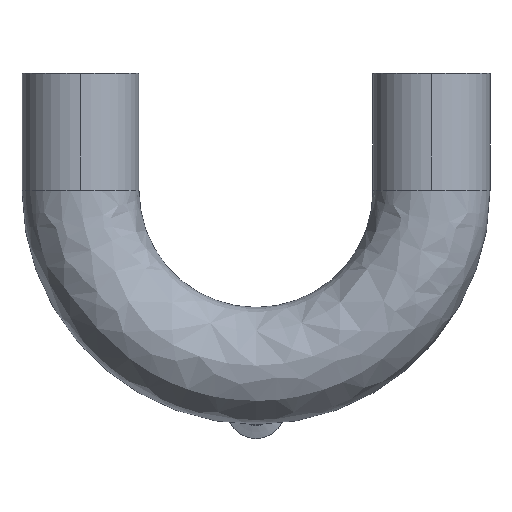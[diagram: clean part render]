
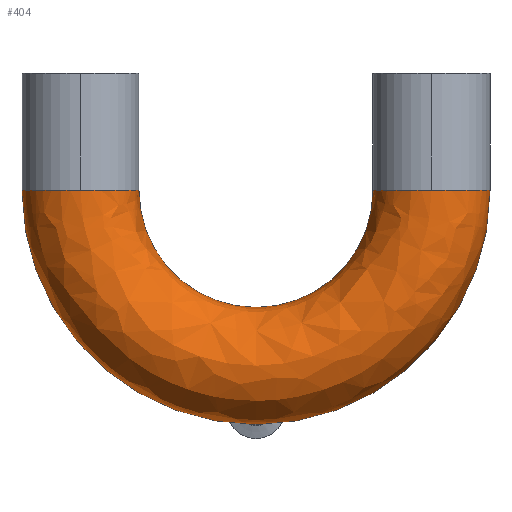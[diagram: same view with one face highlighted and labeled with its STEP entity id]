
A CAD part, top view. The second image highlights one B-rep face of the part: STEP entity #404.
In plain terms, the highlighted free-form (B-spline) face has degree [3, 3] with [4, 4] control points.
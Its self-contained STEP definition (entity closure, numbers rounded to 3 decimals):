
#3 = DIRECTION ( 'NONE',  ( 0., -1., 0. ) ) ;
#13 = VERTEX_POINT ( 'NONE', #1626 ) ;
#23 = DIRECTION ( 'NONE',  ( 1., 0., 0. ) ) ;
#35 = DIRECTION ( 'NONE',  ( 0., -1., 0. ) ) ;
#61 = CIRCLE ( 'NONE', #894, 25.4 ) ;
#87 = ORIENTED_EDGE ( 'NONE', *, *, #372, .T. ) ;
#115 = DIRECTION ( 'NONE',  ( 0., 0., -1. ) ) ;
#159 = CARTESIAN_POINT ( 'NONE',  ( 101.6, 76.2, 0. ) ) ;
#174 = CARTESIAN_POINT ( 'NONE',  ( -50.8, 76.2, 0. ) ) ;
#186 = VERTEX_POINT ( 'NONE', #1222 ) ;
#215 = DIRECTION ( 'NONE',  ( 0., 0., -1. ) ) ;
#245 = CARTESIAN_POINT ( 'NONE',  ( 0., -25.4, 0. ) ) ;
#263 = CARTESIAN_POINT ( 'NONE',  ( -76.2, 76.2, 0. ) ) ;
#265 = ORIENTED_EDGE ( 'NONE', *, *, #1531, .F. ) ;
#272 = EDGE_CURVE ( 'NONE', #13, #1044, #61, .T. ) ;
#278 = CARTESIAN_POINT ( 'NONE',  ( -50.8, 76.2, 0. ) ) ;
#294 = FACE_OUTER_BOUND ( 'NONE', #789, .T. ) ;
#298 = CARTESIAN_POINT ( 'NONE',  ( -101.6, 76.2, 0. ) ) ;
#328 = AXIS2_PLACEMENT_3D ( 'NONE', #543, #1479, #673 ) ;
#372 = EDGE_CURVE ( 'NONE', #1726, #13, #1187, .T. ) ;
#381 = ORIENTED_EDGE ( 'NONE', *, *, #1494, .T. ) ;
#404 = ADVANCED_FACE ( 'NONE', ( #294 ), #1272, .T. ) ;
#415 = DIRECTION ( 'NONE',  ( -1., 0., 0. ) ) ;
#420 = CARTESIAN_POINT ( 'NONE',  ( 101.6, -127., 50.8 ) ) ;
#438 = CARTESIAN_POINT ( 'NONE',  ( -101.6, -127., 50.8 ) ) ;
#497 = AXIS2_PLACEMENT_3D ( 'NONE', #1037, #215, #1186 ) ;
#518 = VERTEX_POINT ( 'NONE', #807 ) ;
#543 = CARTESIAN_POINT ( 'NONE',  ( -76.2, 76.2, 0. ) ) ;
#548 = DIRECTION ( 'NONE',  ( 1., 0., 0. ) ) ;
#572 = CARTESIAN_POINT ( 'NONE',  ( 50.8, -25.4, 0. ) ) ;
#639 = VERTEX_POINT ( 'NONE', #278 ) ;
#673 = DIRECTION ( 'NONE',  ( -1., 0., 0. ) ) ;
#703 = CIRCLE ( 'NONE', #497, 101.6 ) ;
#705 = DIRECTION ( 'NONE',  ( 0., 0., -1. ) ) ;
#789 = EDGE_LOOP ( 'NONE', ( #1193, #1052, #381, #1227, #265, #1710, #87 ) ) ;
#807 = CARTESIAN_POINT ( 'NONE',  ( -101.6, 76.2, 0. ) ) ;
#849 = CARTESIAN_POINT ( 'NONE',  ( -50.8, -25.4, 0. ) ) ;
#894 = AXIS2_PLACEMENT_3D ( 'NONE', #1125, #3, #548 ) ;
#931 = CARTESIAN_POINT ( 'NONE',  ( 0., 76.2, 0. ) ) ;
#952 = CARTESIAN_POINT ( 'NONE',  ( 76.2, 76.2, 0. ) ) ;
#969 = CARTESIAN_POINT ( 'NONE',  ( -101.6, -127., 0. ) ) ;
#1004 = CIRCLE ( 'NONE', #1717, 50.8 ) ;
#1037 = CARTESIAN_POINT ( 'NONE',  ( 0., 76.2, 0. ) ) ;
#1044 = VERTEX_POINT ( 'NONE', #1687 ) ;
#1052 = ORIENTED_EDGE ( 'NONE', *, *, #1151, .T. ) ;
#1074 = DIRECTION ( 'NONE',  ( -1., 0., 0. ) ) ;
#1111 = AXIS2_PLACEMENT_3D ( 'NONE', #263, #1234, #415 ) ;
#1125 = CARTESIAN_POINT ( 'NONE',  ( 76.2, 76.2, 0. ) ) ;
#1148 = CARTESIAN_POINT ( 'NONE',  ( 101.6, 76.2, 50.8 ) ) ;
#1151 = EDGE_CURVE ( 'NONE', #1044, #639, #1004, .T. ) ;
#1155 = EDGE_CURVE ( 'NONE', #186, #518, #1294, .T. ) ;
#1176 = VERTEX_POINT ( 'NONE', #245 ) ;
#1186 = DIRECTION ( 'NONE',  ( -1., 0., 0. ) ) ;
#1187 = CIRCLE ( 'NONE', #1339, 25.4 ) ;
#1193 = ORIENTED_EDGE ( 'NONE', *, *, #272, .T. ) ;
#1222 = CARTESIAN_POINT ( 'NONE',  ( -76.2, 76.2, 25.4 ) ) ;
#1227 = ORIENTED_EDGE ( 'NONE', *, *, #1155, .T. ) ;
#1230 = CARTESIAN_POINT ( 'NONE',  ( 50.8, 76.2, 50.8 ) ) ;
#1234 = DIRECTION ( 'NONE',  ( 0., -1., 0. ) ) ;
#1272 =( BOUNDED_SURFACE ( )  B_SPLINE_SURFACE ( 3, 3, ( 
 ( #159, #1749, #969, #298 ),
 ( #1148, #420, #438, #1540 ),
 ( #1230, #1613, #1604, #1636 ),
 ( #1620, #572, #849, #174 ) ),
 .UNSPECIFIED., .F., .F., .F. ) 
 B_SPLINE_SURFACE_WITH_KNOTS ( ( 4, 4 ),
 ( 4, 4 ),
 ( 0., 1. ),
 ( 0., 1. ),
 .UNSPECIFIED. ) 
 GEOMETRIC_REPRESENTATION_ITEM ( )  RATIONAL_B_SPLINE_SURFACE ( (
 ( 1., 0.333, 0.333, 1.),
 ( 0.333, 0.111, 0.111, 0.333),
 ( 0.333, 0.111, 0.111, 0.333),
 ( 1., 0.333, 0.333, 1.) ) ) 
 REPRESENTATION_ITEM ( '' )  SURFACE ( )  );
#1294 = CIRCLE ( 'NONE', #328, 25.4 ) ;
#1339 = AXIS2_PLACEMENT_3D ( 'NONE', #952, #35, #23 ) ;
#1442 = EDGE_CURVE ( 'NONE', #1726, #1176, #703, .T. ) ;
#1464 = AXIS2_PLACEMENT_3D ( 'NONE', #1509, #705, #1642 ) ;
#1479 = DIRECTION ( 'NONE',  ( 0., -1., 0. ) ) ;
#1494 = EDGE_CURVE ( 'NONE', #639, #186, #1699, .T. ) ;
#1509 = CARTESIAN_POINT ( 'NONE',  ( 0., 76.2, 0. ) ) ;
#1531 = EDGE_CURVE ( 'NONE', #1176, #518, #1597, .T. ) ;
#1540 = CARTESIAN_POINT ( 'NONE',  ( -101.6, 76.2, 50.8 ) ) ;
#1597 = CIRCLE ( 'NONE', #1464, 101.6 ) ;
#1604 = CARTESIAN_POINT ( 'NONE',  ( -50.8, -25.4, 50.8 ) ) ;
#1613 = CARTESIAN_POINT ( 'NONE',  ( 50.8, -25.4, 50.8 ) ) ;
#1620 = CARTESIAN_POINT ( 'NONE',  ( 50.8, 76.2, 0. ) ) ;
#1626 = CARTESIAN_POINT ( 'NONE',  ( 76.2, 76.2, 25.4 ) ) ;
#1636 = CARTESIAN_POINT ( 'NONE',  ( -50.8, 76.2, 50.8 ) ) ;
#1642 = DIRECTION ( 'NONE',  ( -1., 0., 0. ) ) ;
#1687 = CARTESIAN_POINT ( 'NONE',  ( 50.8, 76.2, 0. ) ) ;
#1699 = CIRCLE ( 'NONE', #1111, 25.4 ) ;
#1710 = ORIENTED_EDGE ( 'NONE', *, *, #1442, .F. ) ;
#1717 = AXIS2_PLACEMENT_3D ( 'NONE', #931, #115, #1074 ) ;
#1726 = VERTEX_POINT ( 'NONE', #1759 ) ;
#1749 = CARTESIAN_POINT ( 'NONE',  ( 101.6, -127., 0. ) ) ;
#1759 = CARTESIAN_POINT ( 'NONE',  ( 101.6, 76.2, 0. ) ) ;
